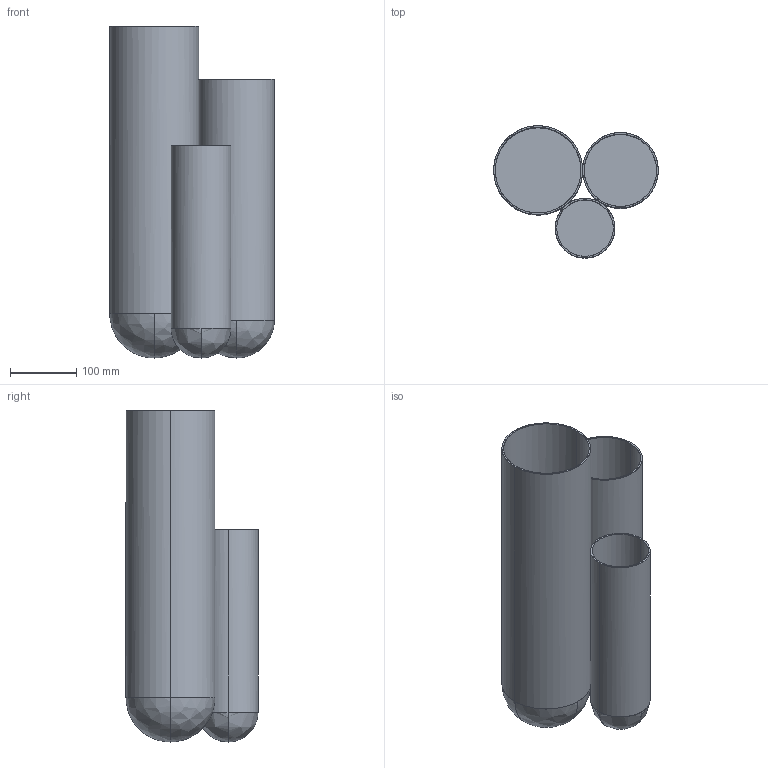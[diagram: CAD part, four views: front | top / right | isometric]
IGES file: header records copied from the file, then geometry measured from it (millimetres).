
Start section: Comment
Global section: file name: R3.igs; native system:  By UGS Corp.; preprocessor: XPlus GENERIC/IGES 3.0; author: Author; organization: Title; date: 20151120.140042; units: inch
Bounding box: 248 x 198.92 x 500 mm (x, y, z)
Surface area: 855272.5 mm2 (no closed solid volume)
Topology: 0 solids, 0 shells, 30 faces, 120 edges, 108 vertices
Faces by surface type: bspline 30
